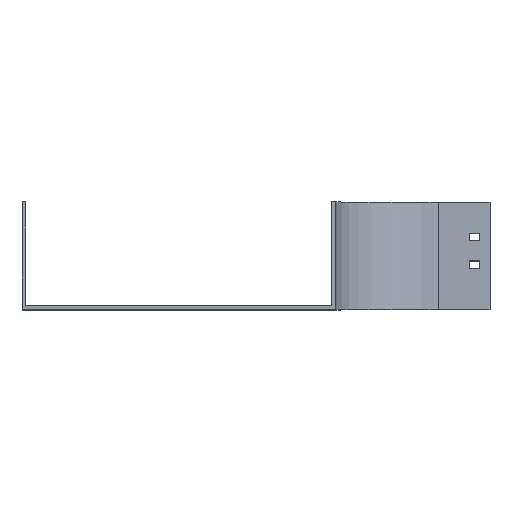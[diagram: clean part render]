
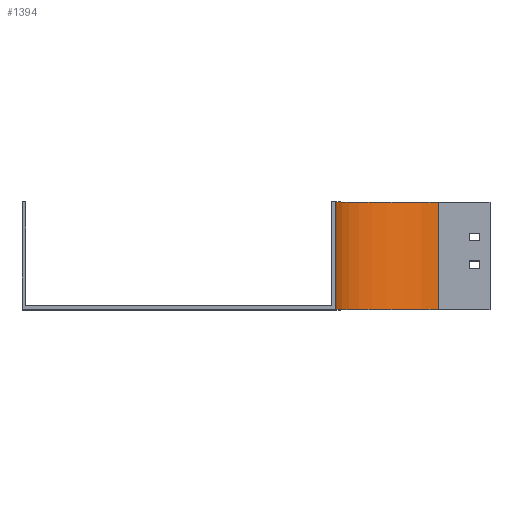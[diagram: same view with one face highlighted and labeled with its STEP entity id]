
A CAD part, top view. The second image highlights one B-rep face of the part: STEP entity #1394.
In plain terms, the highlighted cylindrical face has radius 100 mm (diameter 200 mm), a partial arc.
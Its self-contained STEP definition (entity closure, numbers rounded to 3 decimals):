
#19 = CARTESIAN_POINT ( 'NONE',  ( 0., 0., -100. ) ) ;
#120 = VERTEX_POINT ( 'NONE', #766 ) ;
#153 = EDGE_CURVE ( 'NONE', #1043, #834, #2517, .T. ) ;
#205 = EDGE_LOOP ( 'NONE', ( #755, #1343, #2337, #1463 ) ) ;
#256 = DIRECTION ( 'NONE',  ( 0., -1., 0. ) ) ;
#320 = CARTESIAN_POINT ( 'NONE',  ( 0., 104., -100. ) ) ;
#337 = DIRECTION ( 'NONE',  ( 0., 0., -1. ) ) ;
#513 = DIRECTION ( 'NONE',  ( 0., -1., 0. ) ) ;
#517 = EDGE_CURVE ( 'NONE', #120, #2349, #2119, .T. ) ;
#531 = CARTESIAN_POINT ( 'NONE',  ( 0., 0., 0. ) ) ;
#534 = CYLINDRICAL_SURFACE ( 'NONE', #880, 100. ) ;
#750 = DIRECTION ( 'NONE',  ( 0., 0., -1. ) ) ;
#755 = ORIENTED_EDGE ( 'NONE', *, *, #517, .T. ) ;
#766 = CARTESIAN_POINT ( 'NONE',  ( -100., 0., 0. ) ) ;
#834 = VERTEX_POINT ( 'NONE', #320 ) ;
#863 = DIRECTION ( 'NONE',  ( 0., -1., 0. ) ) ;
#880 = AXIS2_PLACEMENT_3D ( 'NONE', #2633, #513, #1530 ) ;
#925 = EDGE_CURVE ( 'NONE', #834, #2349, #1404, .T. ) ;
#1043 = VERTEX_POINT ( 'NONE', #1480 ) ;
#1121 = LINE ( 'NONE', #2424, #1913 ) ;
#1211 = DIRECTION ( 'NONE',  ( 0., -1., 0. ) ) ;
#1275 = VECTOR ( 'NONE', #863, 1000. ) ;
#1343 = ORIENTED_EDGE ( 'NONE', *, *, #925, .F. ) ;
#1394 = ADVANCED_FACE ( 'NONE', ( #2439 ), #534, .F. ) ;
#1404 = LINE ( 'NONE', #2267, #1275 ) ;
#1463 = ORIENTED_EDGE ( 'NONE', *, *, #2471, .T. ) ;
#1480 = CARTESIAN_POINT ( 'NONE',  ( -100., 104., 0. ) ) ;
#1530 = DIRECTION ( 'NONE',  ( 0., 0., -1. ) ) ;
#1620 = AXIS2_PLACEMENT_3D ( 'NONE', #2282, #1211, #750 ) ;
#1913 = VECTOR ( 'NONE', #256, 1000. ) ;
#2119 = CIRCLE ( 'NONE', #2656, 100. ) ;
#2229 = DIRECTION ( 'NONE',  ( 0., -1., 0. ) ) ;
#2267 = CARTESIAN_POINT ( 'NONE',  ( 0., 104., -100. ) ) ;
#2282 = CARTESIAN_POINT ( 'NONE',  ( 0., 104., 0. ) ) ;
#2337 = ORIENTED_EDGE ( 'NONE', *, *, #153, .F. ) ;
#2349 = VERTEX_POINT ( 'NONE', #19 ) ;
#2424 = CARTESIAN_POINT ( 'NONE',  ( -100., 104., 0. ) ) ;
#2439 = FACE_OUTER_BOUND ( 'NONE', #205, .T. ) ;
#2471 = EDGE_CURVE ( 'NONE', #1043, #120, #1121, .T. ) ;
#2517 = CIRCLE ( 'NONE', #1620, 100. ) ;
#2633 = CARTESIAN_POINT ( 'NONE',  ( 0., 104., 0. ) ) ;
#2656 = AXIS2_PLACEMENT_3D ( 'NONE', #531, #2229, #337 ) ;
